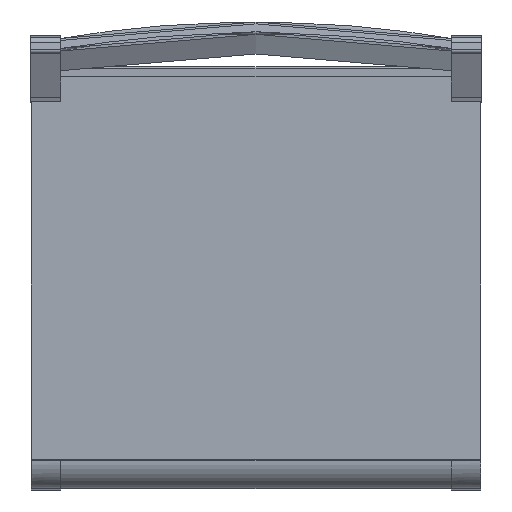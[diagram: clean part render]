
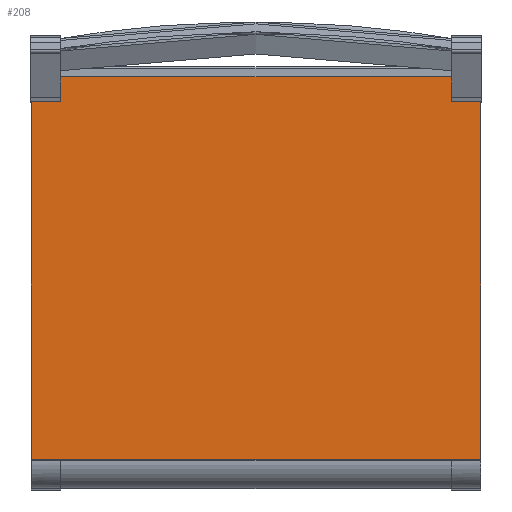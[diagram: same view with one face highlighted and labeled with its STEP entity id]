
A CAD part, top view. The second image highlights one B-rep face of the part: STEP entity #208.
In plain terms, the highlighted planar face has unit normal (0, 0, 1).
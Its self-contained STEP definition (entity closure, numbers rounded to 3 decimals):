
#208=ADVANCED_FACE('',(#328),#1753,.T.);
#328=FACE_OUTER_BOUND('',#448,.T.);
#448=EDGE_LOOP('',(#599,#600,#601,#602,#603,#604,#605,#606));
#599=ORIENTED_EDGE('',*,*,#1125,.T.);
#600=ORIENTED_EDGE('',*,*,#1129,.T.);
#601=ORIENTED_EDGE('',*,*,#1132,.T.);
#602=ORIENTED_EDGE('',*,*,#1135,.T.);
#603=ORIENTED_EDGE('',*,*,#1138,.T.);
#604=ORIENTED_EDGE('',*,*,#1141,.T.);
#605=ORIENTED_EDGE('',*,*,#1144,.T.);
#606=ORIENTED_EDGE('',*,*,#1146,.T.);
#1125=EDGE_CURVE('',#1559,#1558,#1407,.T.);
#1129=EDGE_CURVE('',#1558,#1561,#1411,.T.);
#1132=EDGE_CURVE('',#1561,#1563,#1414,.T.);
#1135=EDGE_CURVE('',#1563,#1565,#1417,.T.);
#1138=EDGE_CURVE('',#1565,#1567,#1420,.T.);
#1141=EDGE_CURVE('',#1567,#1569,#1423,.T.);
#1144=EDGE_CURVE('',#1569,#1571,#1426,.T.);
#1146=EDGE_CURVE('',#1571,#1559,#1428,.T.);
#1407=B_SPLINE_CURVE_WITH_KNOTS('',1,(#2182,#2183),.UNSPECIFIED.,.F.,.F.,
(2,2),(-1462.,-1440.353),.UNSPECIFIED.);
#1411=B_SPLINE_CURVE_WITH_KNOTS('',1,(#2190,#2191),.UNSPECIFIED.,.F.,.F.,
(2,2),(-1440.353,-1097.353),.UNSPECIFIED.);
#1414=B_SPLINE_CURVE_WITH_KNOTS('',1,(#2196,#2197),.UNSPECIFIED.,.F.,.F.,
(2,2),(-1097.353,-1075.706),.UNSPECIFIED.);
#1417=B_SPLINE_CURVE_WITH_KNOTS('',1,(#2202,#2203),.UNSPECIFIED.,.F.,.F.,
(2,2),(-1075.706,-1049.706),.UNSPECIFIED.);
#1420=B_SPLINE_CURVE_WITH_KNOTS('',1,(#2208,#2209),.UNSPECIFIED.,.F.,.F.,
(2,2),(-1049.706,-735.353),.UNSPECIFIED.);
#1423=B_SPLINE_CURVE_WITH_KNOTS('',1,(#2214,#2215),.UNSPECIFIED.,.F.,.F.,
(2,2),(-735.353,-340.353),.UNSPECIFIED.);
#1426=B_SPLINE_CURVE_WITH_KNOTS('',1,(#2220,#2221),.UNSPECIFIED.,.F.,.F.,
(2,2),(-340.353,-26.),.UNSPECIFIED.);
#1428=B_SPLINE_CURVE_WITH_KNOTS('',1,(#2224,#2225),.UNSPECIFIED.,.F.,.F.,
(2,2),(-26.,0.),.UNSPECIFIED.);
#1558=VERTEX_POINT('',#2164);
#1559=VERTEX_POINT('',#2165);
#1561=VERTEX_POINT('',#2167);
#1563=VERTEX_POINT('',#2169);
#1565=VERTEX_POINT('',#2171);
#1567=VERTEX_POINT('',#2173);
#1569=VERTEX_POINT('',#2175);
#1571=VERTEX_POINT('',#2177);
#1753=PLANE('',#1931);
#1931=AXIS2_PLACEMENT_3D('',#2161,#2046,$);
#2046=DIRECTION('',(0.,0.,1.));
#2161=CARTESIAN_POINT('',(197.5,156.879,760.));
#2164=CARTESIAN_POINT('',(171.5,156.879,760.));
#2165=CARTESIAN_POINT('',(171.5,135.232,760.));
#2167=CARTESIAN_POINT('',(-171.5,156.879,760.));
#2169=CARTESIAN_POINT('',(-171.5,135.232,760.));
#2171=CARTESIAN_POINT('',(-197.5,135.232,760.));
#2173=CARTESIAN_POINT('',(-197.5,-179.121,760.));
#2175=CARTESIAN_POINT('',(197.5,-179.121,760.));
#2177=CARTESIAN_POINT('',(197.5,135.232,760.));
#2182=CARTESIAN_POINT('',(171.5,135.232,760.));
#2183=CARTESIAN_POINT('',(171.5,156.879,760.));
#2190=CARTESIAN_POINT('',(171.5,156.879,760.));
#2191=CARTESIAN_POINT('',(-171.5,156.879,760.));
#2196=CARTESIAN_POINT('',(-171.5,156.879,760.));
#2197=CARTESIAN_POINT('',(-171.5,135.232,760.));
#2202=CARTESIAN_POINT('',(-171.5,135.232,760.));
#2203=CARTESIAN_POINT('',(-197.5,135.232,760.));
#2208=CARTESIAN_POINT('',(-197.5,135.232,760.));
#2209=CARTESIAN_POINT('',(-197.5,-179.121,760.));
#2214=CARTESIAN_POINT('',(-197.5,-179.121,760.));
#2215=CARTESIAN_POINT('',(197.5,-179.121,760.));
#2220=CARTESIAN_POINT('',(197.5,-179.121,760.));
#2221=CARTESIAN_POINT('',(197.5,135.232,760.));
#2224=CARTESIAN_POINT('',(197.5,135.232,760.));
#2225=CARTESIAN_POINT('',(171.5,135.232,760.));
